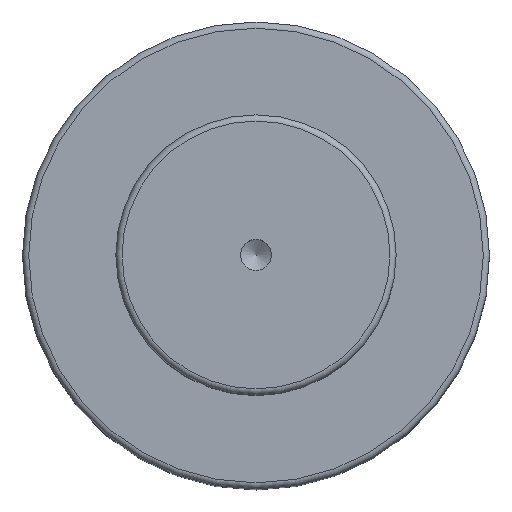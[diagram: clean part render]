
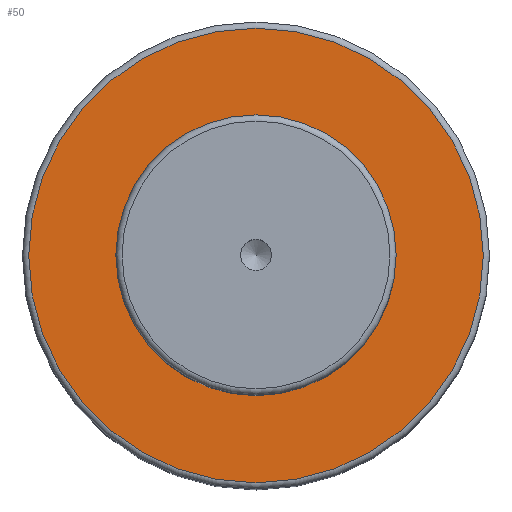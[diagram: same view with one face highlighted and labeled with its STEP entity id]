
A CAD part, top view. The second image highlights one B-rep face of the part: STEP entity #50.
In plain terms, the highlighted planar face has unit normal (0, 0, 1).
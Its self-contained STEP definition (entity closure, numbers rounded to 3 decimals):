
#40=PLANE('',#179);
#50=ADVANCED_FACE('',(#72,#73),#40,.F.);
#72=FACE_BOUND('',#96,.T.);
#73=FACE_BOUND('',#97,.T.);
#96=EDGE_LOOP('',(#118));
#97=EDGE_LOOP('',(#119));
#118=ORIENTED_EDGE('',*,*,#149,.F.);
#119=ORIENTED_EDGE('',*,*,#148,.T.);
#135=VERTEX_POINT('',#256);
#136=VERTEX_POINT('',#259);
#148=EDGE_CURVE('',#135,#135,#159,.T.);
#149=EDGE_CURVE('',#136,#136,#160,.T.);
#159=CIRCLE('',#176,22.5);
#160=CIRCLE('',#178,36.5);
#176=AXIS2_PLACEMENT_3D('',#255,#213,#214);
#178=AXIS2_PLACEMENT_3D('',#258,#217,#218);
#179=AXIS2_PLACEMENT_3D('',#260,#219,#220);
#213=DIRECTION('',(0.,0.,-1.));
#214=DIRECTION('',(-1.,0.,0.));
#217=DIRECTION('',(0.,0.,-1.));
#218=DIRECTION('',(-1.,0.,0.));
#219=DIRECTION('',(0.,0.,-1.));
#220=DIRECTION('',(-1.,0.,0.));
#255=CARTESIAN_POINT('',(0.,0.,89.));
#256=CARTESIAN_POINT('',(-22.5,0.,89.));
#258=CARTESIAN_POINT('',(0.,0.,89.));
#259=CARTESIAN_POINT('',(-36.5,0.,89.));
#260=CARTESIAN_POINT('',(22.5,0.,89.));
